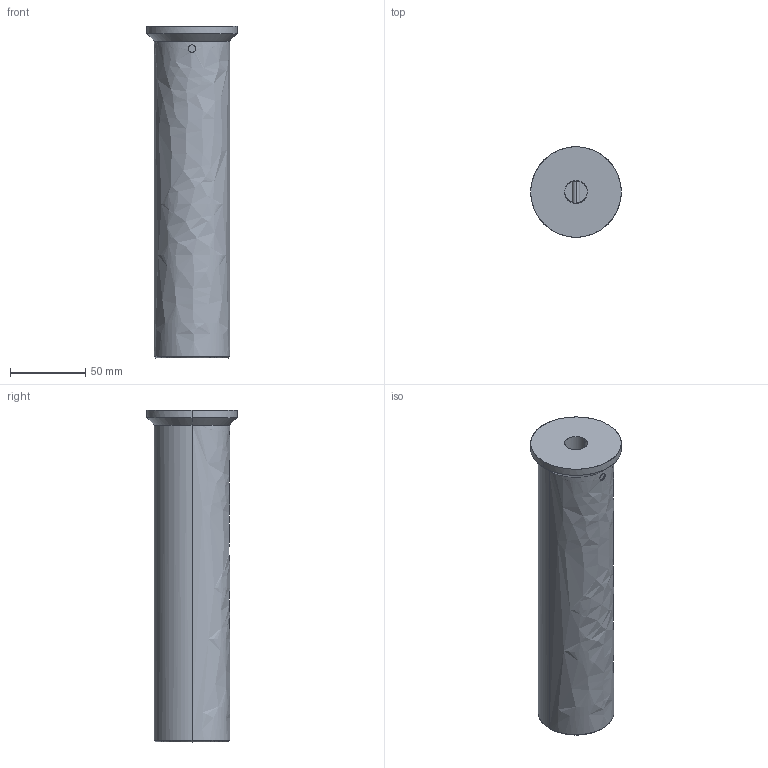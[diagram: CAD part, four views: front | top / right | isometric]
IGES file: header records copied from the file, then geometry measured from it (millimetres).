
Global section: file name: E:\UnigraphicsGraphicData\MISUMI_PRESS-PARTS\IGES\3d_lcup50-220_01352_r00.igs; native system: NX V5.0; preprocessor: UGS NX IGES V5.0; author: MISUMI; date: 20110105.161157; units: millimetre
Bounding box: 60 x 60 x 220 mm (x, y, z)
Surface area: 42027.2 mm2 (no closed solid volume)
Topology: 0 solids, 0 shells, 19 faces, 146 edges, 146 vertices
Faces by surface type: bspline 19
